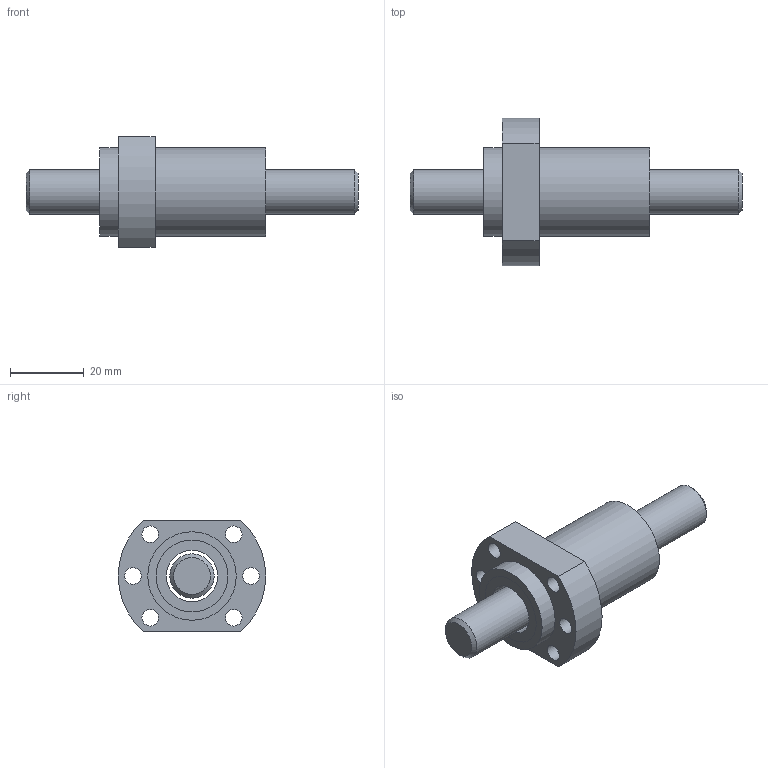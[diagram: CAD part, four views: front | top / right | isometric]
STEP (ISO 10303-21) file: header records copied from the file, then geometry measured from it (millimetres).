
FILE_DESCRIPTION (( 'STEP AP203' ), '1' );
FILE_NAME ('SFNH1210-2.8.STEP', '2023-08-17T00:28:20', ( '' ), ( '' ), 'SwSTEP 2.0', 'SolidWorks 2022', '' );
FILE_SCHEMA (( 'CONFIG_CONTROL_DESIGN' ));
Length unit declared in the file: millimetre
Products named in the file (1): SFNH1210-2.8
Bounding box: 90 x 40 x 30 mm (x, y, z)
Volume: 26677.8 mm3; surface area: 14757.8 mm2
Topology: 4 solids, 4 shells, 50 faces, 90 edges, 60 vertices
Faces by surface type: cylinder 26, plane 22, cone 2
Full cylindrical faces by diameter (mm): 4.5 x6, 12 x1, 14 x3, 16 x4, 19.5 x4, 21 x4, 24 x2
Entity records: 1207 total; most frequent: DIRECTION 218, CARTESIAN_POINT 171, ORIENTED_EDGE 124, EDGE_LOOP 106, AXIS2_PLACEMENT_3D 105, FACE_OUTER_BOUND 74, EDGE_CURVE 62, VERTEX_POINT 58
